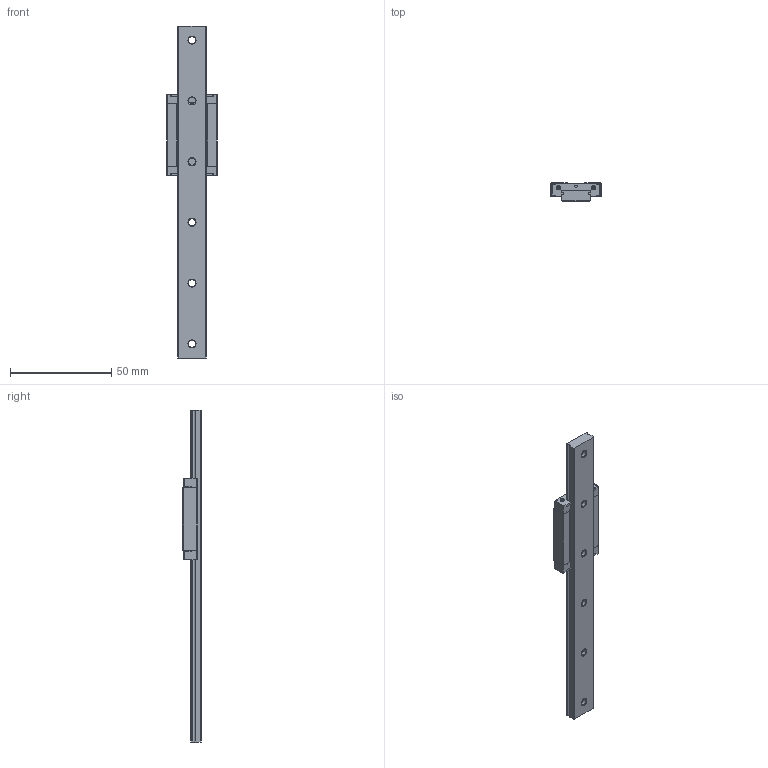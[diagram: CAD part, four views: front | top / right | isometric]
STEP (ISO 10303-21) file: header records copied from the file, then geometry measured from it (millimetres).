
FILE_DESCRIPTION( ('This file contains a STEP AP42 implementation' ,'as created by ZW3D STEP Interface translator.') ,'2;1' );
FILE_NAME( 'TM07WL-NS-Z0.stp' ,'24 9 6.112021', (''), ('ZWCAD Software Co.'), 'Version 1.0', 'ZW3D to STEP translator', '' );
FILE_SCHEMA(('AUTOMOTIVE_DESIGN { 1 0 10303 214 1 1 1 1 }'));
Length unit declared in the file: millimetre
Products named in the file (9): 0; TM07WL-NS-Z0; TM07WH; 07W滅鳥え; M1.4; 07W傷裔; 07W悜遠路え; 07WS賑輸; 07W盄寢
Assembly tree (13 placements, depth 3):
  0
  TM07WL-NS-Z0
    TM07WH
      07W滅鳥え  x2
      M1.4  x4
      07W傷裔  x2
      07W悜遠路え  x2
      07WS賑輸
    07W盄寢
Bounding box: 25 x 9 x 164 mm (x, y, z)
Volume: 15686.3 mm3; surface area: 11778.9 mm2
Topology: 12 solids, 12 shells, 472 faces, 3131 edges, 4581 vertices
Faces by surface type: plane 263, cylinder 137, cone 48, bspline 24
Entity records: 22508 total; most frequent: CARTESIAN_POINT 11287, B_SPLINE_CURVE_WITH_KNOTS 1907, STYLED_ITEM 1889, DIRECTION 1510, ORIENTED_EDGE 1408, EDGE_CURVE 704, AXIS2_PLACEMENT_3D 520, VECTOR 470
